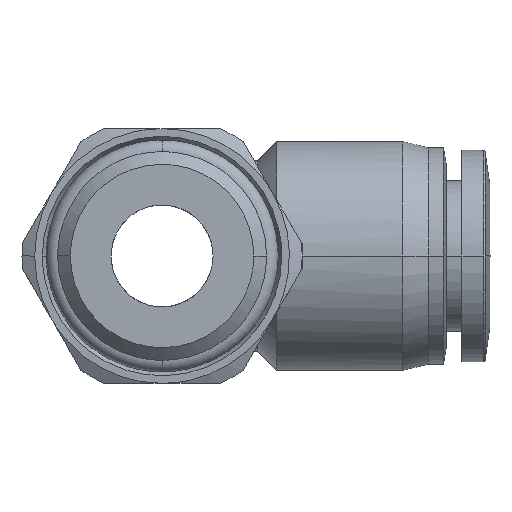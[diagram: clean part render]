
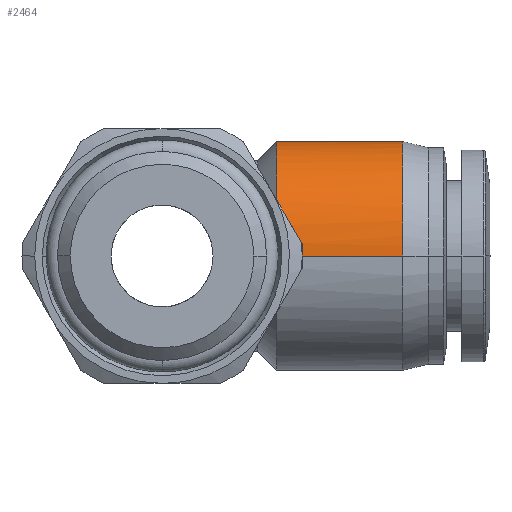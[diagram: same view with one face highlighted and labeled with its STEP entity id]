
A CAD part, front view. The second image highlights one B-rep face of the part: STEP entity #2464.
In plain terms, the highlighted cylindrical face has radius 9 mm (diameter 18 mm), a partial arc.
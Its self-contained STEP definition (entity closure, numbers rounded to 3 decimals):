
#352 = CARTESIAN_POINT ( 'NONE',  ( 9., 22.184, 7.438 ) ) ;
#377 = FACE_OUTER_BOUND ( 'NONE', #6031, .T. ) ;
#411 = CARTESIAN_POINT ( 'NONE',  ( 9., 11.816, 7.438 ) ) ;
#443 = CARTESIAN_POINT ( 'NONE',  ( 9., 25.5, 3.153 ) ) ;
#465 = CARTESIAN_POINT ( 'NONE',  ( 18.9, 8.234, 2.356 ) ) ;
#490 = ORIENTED_EDGE ( 'NONE', *, *, #4390, .F. ) ;
#495 = CARTESIAN_POINT ( 'NONE',  ( 18.9, 9.136, 4.533 ) ) ;
#511 = EDGE_CURVE ( 'NONE', #1329, #1587, #1882, .T. ) ;
#568 = CARTESIAN_POINT ( 'NONE',  ( 9., 8.056, 1. ) ) ;
#722 = EDGE_CURVE ( 'NONE', #2984, #852, #3343, .T. ) ;
#812 = AXIS2_PLACEMENT_3D ( 'NONE', #3194, #4710, #3691 ) ;
#852 = VERTEX_POINT ( 'NONE', #1545 ) ;
#868 = CARTESIAN_POINT ( 'NONE',  ( 9., 18.095, 9. ) ) ;
#876 = LINE ( 'NONE', #5559, #1132 ) ;
#967 = CARTESIAN_POINT ( 'NONE',  ( 11.018, 8.018, 0.667 ) ) ;
#1010 = CARTESIAN_POINT ( 'NONE',  ( 18.9, 8., 0. ) ) ;
#1069 = VERTEX_POINT ( 'NONE', #4674 ) ;
#1132 = VECTOR ( 'NONE', #4097, 1000. ) ;
#1170 = CARTESIAN_POINT ( 'NONE',  ( 11.056, 8.056, 1. ) ) ;
#1186 = CARTESIAN_POINT ( 'NONE',  ( 9.685, 8.056, 1. ) ) ;
#1250 = CARTESIAN_POINT ( 'NONE',  ( 11.5, 26., 0. ) ) ;
#1251 = EDGE_CURVE ( 'NONE', #1069, #2342, #3000, .T. ) ;
#1300 = CYLINDRICAL_SURFACE ( 'NONE', #812, 9. ) ;
#1329 = VERTEX_POINT ( 'NONE', #2594 ) ;
#1403 = CARTESIAN_POINT ( 'NONE',  ( 11.518, 25.982, 0.667 ) ) ;
#1424 = CARTESIAN_POINT ( 'NONE',  ( 18.9, 14.644, 8.766 ) ) ;
#1480 = CARTESIAN_POINT ( 'NONE',  ( 18.9, 12.467, 7.864 ) ) ;
#1511 = CARTESIAN_POINT ( 'NONE',  ( 18.9, 22.531, 7.197 ) ) ;
#1516 = EDGE_CURVE ( 'NONE', #4296, #1329, #4793, .T. ) ;
#1518 = CARTESIAN_POINT ( 'NONE',  ( 10.704, 25.944, 1. ) ) ;
#1524 = CARTESIAN_POINT ( 'NONE',  ( 11., 8., 0.333 ) ) ;
#1545 = CARTESIAN_POINT ( 'NONE',  ( 9., 8.056, 1. ) ) ;
#1587 = VERTEX_POINT ( 'NONE', #1250 ) ;
#1588 = CARTESIAN_POINT ( 'NONE',  ( 11.056, 8.056, 1. ) ) ;
#1653 = CARTESIAN_POINT ( 'NONE',  ( 10.37, 8.056, 1. ) ) ;
#1854 = CARTESIAN_POINT ( 'NONE',  ( 18.9, 26., 1.178 ) ) ;
#1868 = CARTESIAN_POINT ( 'NONE',  ( 9., 8.177, 2.088 ) ) ;
#1882 = B_SPLINE_CURVE_WITH_KNOTS ( 'NONE', 3,
 ( #3853, #1403, #3300, #2801 ),
 .UNSPECIFIED., .F., .F.,
 ( 4, 4 ),
 ( 0., 0.5 ),
 .UNSPECIFIED. ) ;
#1946 = CARTESIAN_POINT ( 'NONE',  ( 13.95, 8., 0. ) ) ;
#2102 = CARTESIAN_POINT ( 'NONE',  ( 9., 25.944, 1. ) ) ;
#2167 = ORIENTED_EDGE ( 'NONE', *, *, #1251, .T. ) ;
#2252 = EDGE_CURVE ( 'NONE', #4296, #852, #5759, .T. ) ;
#2271 = EDGE_CURVE ( 'NONE', #1069, #2984, #4268, .T. ) ;
#2329 = CARTESIAN_POINT ( 'NONE',  ( 9., 10.184, 5.978 ) ) ;
#2342 = VERTEX_POINT ( 'NONE', #5278 ) ;
#2464 = ADVANCED_FACE ( 'NONE', ( #377 ), #1300, .T. ) ;
#2502 = DIRECTION ( 'NONE',  ( 1., 0., 0. ) ) ;
#2594 = CARTESIAN_POINT ( 'NONE',  ( 11.556, 25.944, 1. ) ) ;
#2741 = CARTESIAN_POINT ( 'NONE',  ( 9., 25.823, 2.088 ) ) ;
#2767 = CARTESIAN_POINT ( 'NONE',  ( 9., 14.811, 8.798 ) ) ;
#2800 = CARTESIAN_POINT ( 'NONE',  ( 9., 15.905, 9. ) ) ;
#2801 = CARTESIAN_POINT ( 'NONE',  ( 11.5, 26., 0. ) ) ;
#2820 = CARTESIAN_POINT ( 'NONE',  ( 18.9, 24.197, 5.531 ) ) ;
#2822 = ORIENTED_EDGE ( 'NONE', *, *, #2271, .F. ) ;
#2984 = VERTEX_POINT ( 'NONE', #1170 ) ;
#3000 = LINE ( 'NONE', #1946, #3739 ) ;
#3194 = CARTESIAN_POINT ( 'NONE',  ( 13.95, 17., 0. ) ) ;
#3233 = CARTESIAN_POINT ( 'NONE',  ( 9., 21.234, 8.017 ) ) ;
#3300 = CARTESIAN_POINT ( 'NONE',  ( 11.5, 26., 0.333 ) ) ;
#3343 = B_SPLINE_CURVE_WITH_KNOTS ( 'NONE', 3,
 ( #5800, #1653, #1186, #568 ),
 .UNSPECIFIED., .F., .F.,
 ( 4, 4 ),
 ( 0., 1. ),
 .UNSPECIFIED. ) ;
#3351 = CARTESIAN_POINT ( 'NONE',  ( 18.9, 21.533, 7.864 ) ) ;
#3378 = CARTESIAN_POINT ( 'NONE',  ( 18.9, 18.178, 9. ) ) ;
#3393 = CARTESIAN_POINT ( 'NONE',  ( 9., 8.056, 1. ) ) ;
#3407 = CARTESIAN_POINT ( 'NONE',  ( 18.9, 8., 1.178 ) ) ;
#3486 = ORIENTED_EDGE ( 'NONE', *, *, #722, .F. ) ;
#3569 = EDGE_CURVE ( 'NONE', #5109, #2342, #3979, .T. ) ;
#3691 = DIRECTION ( 'NONE',  ( 0., 1., 0. ) ) ;
#3697 = CARTESIAN_POINT ( 'NONE',  ( 9., 23.816, 5.978 ) ) ;
#3713 = CARTESIAN_POINT ( 'NONE',  ( 18.9, 26., 0. ) ) ;
#3739 = VECTOR ( 'NONE', #2502, 1000. ) ;
#3748 = CARTESIAN_POINT ( 'NONE',  ( 18.9, 15.822, 9. ) ) ;
#3852 = CARTESIAN_POINT ( 'NONE',  ( 11., 8., 0. ) ) ;
#3853 = CARTESIAN_POINT ( 'NONE',  ( 11.556, 25.944, 1. ) ) ;
#3979 = B_SPLINE_CURVE_WITH_KNOTS ( 'NONE', 3,
 ( #5238, #1854, #4324, #5757, #2820, #1511, #3351, #4705, #3378, #3748, #1424, #1480, #5266, #4235, #495, #465, #3407, #1010 ),
 .UNSPECIFIED., .F., .F.,
 ( 4, 2, 2, 2, 2, 2, 2, 2, 4 ),
 ( 0., 0.062, 0.125, 0.188, 0.25, 0.313, 0.375, 0.438, 0.5 ),
 .UNSPECIFIED. ) ;
#4097 = DIRECTION ( 'NONE',  ( 1., 0., 0. ) ) ;
#4216 = CARTESIAN_POINT ( 'NONE',  ( 9., 9.503, 5.098 ) ) ;
#4235 = CARTESIAN_POINT ( 'NONE',  ( 18.9, 9.803, 5.531 ) ) ;
#4268 = B_SPLINE_CURVE_WITH_KNOTS ( 'NONE', 3,
 ( #3852, #1524, #967, #1588 ),
 .UNSPECIFIED., .F., .F.,
 ( 4, 4 ),
 ( 0.5, 1. ),
 .UNSPECIFIED. ) ;
#4296 = VERTEX_POINT ( 'NONE', #5751 ) ;
#4324 = CARTESIAN_POINT ( 'NONE',  ( 18.9, 25.766, 2.356 ) ) ;
#4390 = EDGE_CURVE ( 'NONE', #1587, #5109, #876, .T. ) ;
#4423 = CARTESIAN_POINT ( 'NONE',  ( 11.556, 25.944, 1. ) ) ;
#4595 = CARTESIAN_POINT ( 'NONE',  ( 9., 25.944, 1. ) ) ;
#4674 = CARTESIAN_POINT ( 'NONE',  ( 11., 8., 0. ) ) ;
#4686 = CARTESIAN_POINT ( 'NONE',  ( 9., 12.766, 8.017 ) ) ;
#4705 = CARTESIAN_POINT ( 'NONE',  ( 18.9, 19.356, 8.766 ) ) ;
#4708 = ORIENTED_EDGE ( 'NONE', *, *, #511, .F. ) ;
#4710 = DIRECTION ( 'NONE',  ( 1., 0., 0. ) ) ;
#4793 = B_SPLINE_CURVE_WITH_KNOTS ( 'NONE', 3,
 ( #2102, #5301, #1518, #4423 ),
 .UNSPECIFIED., .F., .F.,
 ( 4, 4 ),
 ( 0., 1. ),
 .UNSPECIFIED. ) ;
#4930 = ORIENTED_EDGE ( 'NONE', *, *, #3569, .F. ) ;
#5109 = VERTEX_POINT ( 'NONE', #3713 ) ;
#5119 = ORIENTED_EDGE ( 'NONE', *, *, #1516, .F. ) ;
#5128 = CARTESIAN_POINT ( 'NONE',  ( 9., 19.189, 8.798 ) ) ;
#5238 = CARTESIAN_POINT ( 'NONE',  ( 18.9, 26., 0. ) ) ;
#5266 = CARTESIAN_POINT ( 'NONE',  ( 18.9, 11.469, 7.197 ) ) ;
#5278 = CARTESIAN_POINT ( 'NONE',  ( 18.9, 8., 0. ) ) ;
#5301 = CARTESIAN_POINT ( 'NONE',  ( 9.852, 25.944, 1. ) ) ;
#5390 = ORIENTED_EDGE ( 'NONE', *, *, #2252, .T. ) ;
#5559 = CARTESIAN_POINT ( 'NONE',  ( 13.95, 26., 0. ) ) ;
#5751 = CARTESIAN_POINT ( 'NONE',  ( 9., 25.944, 1. ) ) ;
#5757 = CARTESIAN_POINT ( 'NONE',  ( 18.9, 24.864, 4.533 ) ) ;
#5759 = B_SPLINE_CURVE_WITH_KNOTS ( 'NONE', 3,
 ( #4595, #2741, #443, #6019, #3697, #352, #3233, #5128, #868, #2800, #2767, #4686, #411, #2329, #4216, #6110, #1868, #3393 ),
 .UNSPECIFIED., .F., .F.,
 ( 4, 2, 2, 2, 2, 2, 2, 2, 4 ),
 ( 0., 0.125, 0.25, 0.375, 0.5, 0.625, 0.75, 0.875, 1. ),
 .UNSPECIFIED. ) ;
#5800 = CARTESIAN_POINT ( 'NONE',  ( 11.056, 8.056, 1. ) ) ;
#6019 = CARTESIAN_POINT ( 'NONE',  ( 9., 24.497, 5.098 ) ) ;
#6031 = EDGE_LOOP ( 'NONE', ( #2822, #2167, #4930, #490, #4708, #5119, #5390, #3486 ) ) ;
#6110 = CARTESIAN_POINT ( 'NONE',  ( 9., 8.5, 3.153 ) ) ;
